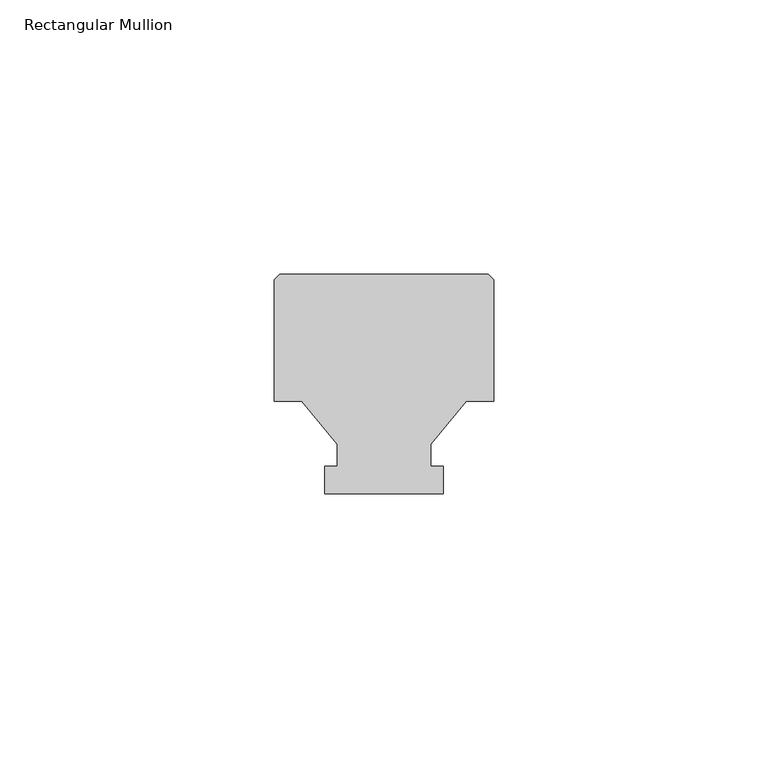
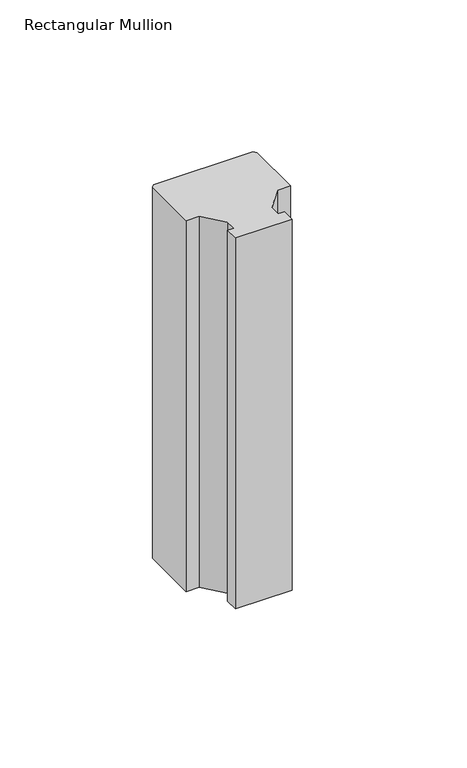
"""IFC4 building model written with IfcOpenShell, lengths in millimetres: member geometry, Rectangular Mullion : Batten_Timber_Modinex_Austratus_Grid_Fin_40x40_AlaskanYellowCedar."""

from ifc_helpers import new_model, si_unit, frame, origin, place, context, project, spatial, polyline, outline, extrude, source, transform, mapped, element, save


def rectangular_mullion_db99d02b(model_context):
    return source(origin(), model_context, "Body", "SweptSolid", [
        extrude(outline(polyline([(0.0, 16.8079815), (-5.0, 16.8079815), (-11.5, 9.0), (-11.5, 5.0), (-9.187805, 5.0), (-9.187805, 0.0), (-30.812195, 0.0), (-30.812195, 5.0), (-28.5, 5.0), (-28.5, 9.0), (-35.0, 16.8079815), (-40.0, 16.8079815), (-40.0, 39.0), (-39.0, 40.0), (-1.0, 40.0), (0.0, 39.0), (0.0, 16.8079815)])), frame((0.0, 0.0, -150.0), z_axis=(0.0, 0.0, 1.0), x_axis=(1.0, 0.0, 0.0)), (0.0, 0.0, 1.0), 150.0),
    ])


if __name__ == "__main__":
    model = new_model("IFC4")
    model_context = context("Model", 3, world=origin())
    ifc_project = project(units=[si_unit("LENGTHUNIT", "METRE", prefix="MILLI")], contexts=[model_context])
    site = spatial("IfcSite", under=ifc_project)
    building = spatial("IfcBuilding", under=site)
    placement = place(None, origin())
    rectangular_mullion_shape = rectangular_mullion_db99d02b(model_context)
    element("IfcMember", 1, ObjectType="Rectangular Mullion : Batten_Timber_Modinex_Austratus_Grid_Fin_40x40_AlaskanYellowCedar", at=placement, inside=building, context=model_context, shape_type="MappedRepresentation", body=[
        mapped(rectangular_mullion_shape, transform((0.0, 0.0, 0.0), x_axis=(1.0, 0.0, 0.0), y_axis=(0.0, 1.0, 0.0), z_axis=(0.0, 0.0, 1.0))),
    ])
    save(model, "model.ifc")
